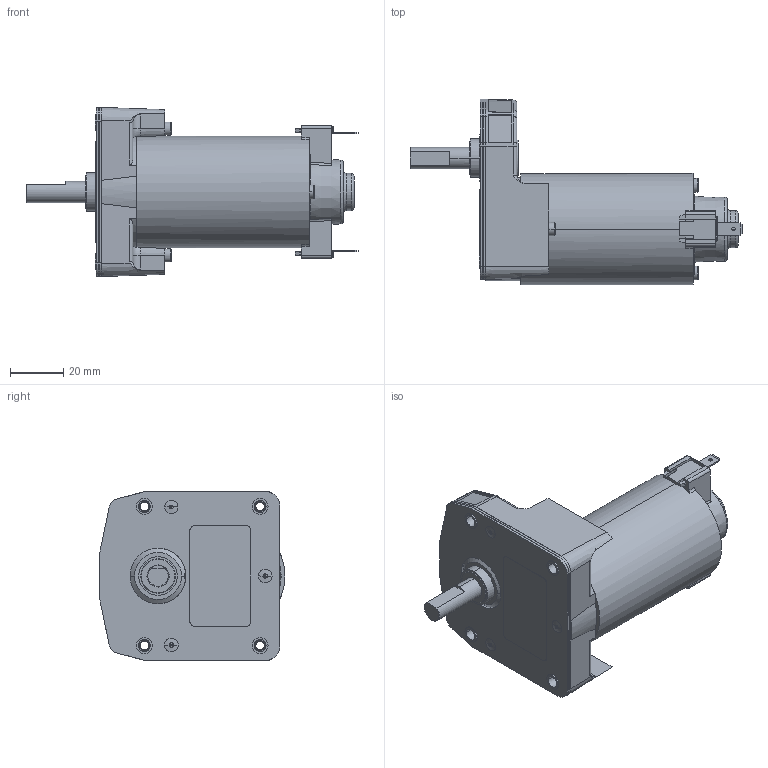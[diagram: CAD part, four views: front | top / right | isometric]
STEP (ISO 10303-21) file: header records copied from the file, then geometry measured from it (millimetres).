
FILE_DESCRIPTION((''),'2;1');
FILE_NAME('ASM0003BIS','2013-10-14T',('ALEBGO1'),('CROUZET-AUTOMATISMES'),'PRO/ENGINEER BY PARAMETRIC TECHNOLOGY CORPORATION, 2010280','PRO/ENGINEER BY PARAMETRIC TECHNOLOGY CORPORATION, 2010280','');
FILE_SCHEMA(('CONFIG_CONTROL_DESIGN'));
Products named in the file (1): ASM0003BIS
Bounding box: 125.1 x 70 x 63.7 mm (x, y, z)
Volume: 55808.7 mm3; surface area: 55147.1 mm2
Topology: 1 solids, 2 shells, 2142 faces, 5543 edges, 3501 vertices
Faces by surface type: plane 1267, cylinder 464, cone 194, torus 101, extrusion 82, bspline 26, sphere 8
Entity records: 68317 total; most frequent: CARTESIAN_POINT 15834, ORIENTED_EDGE 11070, DIRECTION 10710, EDGE_CURVE 5535, AXIS2_PLACEMENT_3D 3617, VERTEX_POINT 3502, VECTOR 3476, LINE 3394
